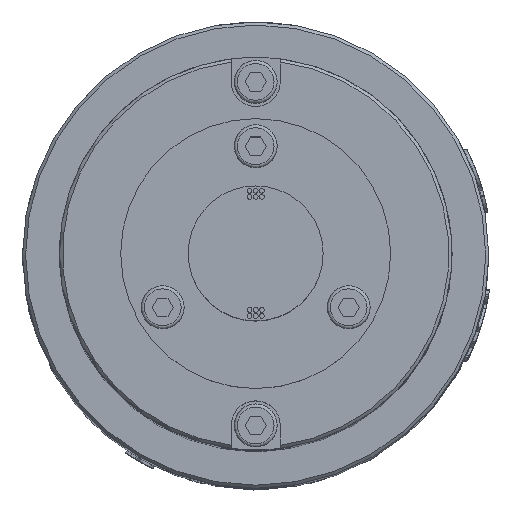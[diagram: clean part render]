
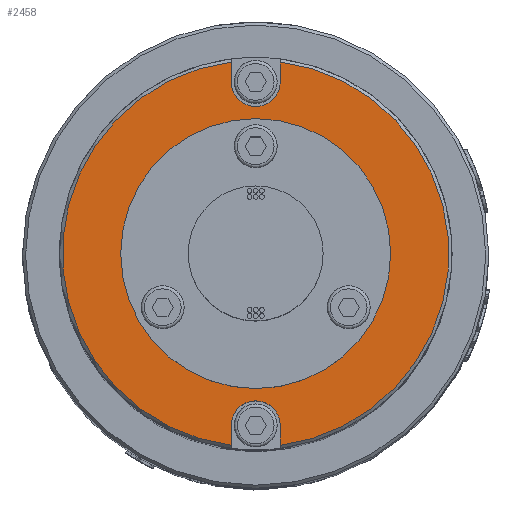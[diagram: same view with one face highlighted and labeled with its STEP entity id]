
A CAD part, top view. The second image highlights one B-rep face of the part: STEP entity #2458.
In plain terms, the highlighted planar face has unit normal (0, 0, 1).
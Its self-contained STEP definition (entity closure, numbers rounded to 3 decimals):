
#2458=ADVANCED_FACE('',(#5340,#5341),#3811,.T.);
#3811=PLANE('',#21771);
#4710=CIRCLE('',#21751,4.);
#4713=CIRCLE('',#21758,4.);
#4716=CIRCLE('',#21763,31.5);
#4719=CIRCLE('',#21768,31.5);
#4720=CIRCLE('',#21770,22.);
#5340=FACE_BOUND('',#6316,.T.);
#5341=FACE_BOUND('',#6317,.T.);
#6316=EDGE_LOOP('',(#8328,#8329,#8330,#8331,#8332,#8333,#8334,#8335));
#6317=EDGE_LOOP('',(#8336));
#8328=ORIENTED_EDGE('',*,*,#16045,.T.);
#8329=ORIENTED_EDGE('',*,*,#16020,.T.);
#8330=ORIENTED_EDGE('',*,*,#16029,.T.);
#8331=ORIENTED_EDGE('',*,*,#16024,.T.);
#8332=ORIENTED_EDGE('',*,*,#16048,.T.);
#8333=ORIENTED_EDGE('',*,*,#16033,.T.);
#8334=ORIENTED_EDGE('',*,*,#16042,.T.);
#8335=ORIENTED_EDGE('',*,*,#16037,.T.);
#8336=ORIENTED_EDGE('',*,*,#16049,.F.);
#13968=VERTEX_POINT('',#29539);
#13969=VERTEX_POINT('',#29541);
#13972=VERTEX_POINT('',#29560);
#13973=VERTEX_POINT('',#29562);
#13978=VERTEX_POINT('',#29578);
#13979=VERTEX_POINT('',#29580);
#13982=VERTEX_POINT('',#29599);
#13983=VERTEX_POINT('',#29601);
#13987=VERTEX_POINT('',#29624);
#16020=EDGE_CURVE('',#13969,#13968,#18887,.T.);
#16024=EDGE_CURVE('',#13973,#13972,#18889,.T.);
#16029=EDGE_CURVE('',#13968,#13973,#4710,.T.);
#16033=EDGE_CURVE('',#13979,#13978,#18895,.T.);
#16037=EDGE_CURVE('',#13983,#13982,#18897,.T.);
#16042=EDGE_CURVE('',#13978,#13983,#4713,.T.);
#16045=EDGE_CURVE('',#13982,#13969,#4716,.T.);
#16048=EDGE_CURVE('',#13972,#13979,#4719,.T.);
#16049=EDGE_CURVE('',#13987,#13987,#4720,.T.);
#18887=LINE('',#29540,#20274);
#18889=LINE('',#29561,#20276);
#18895=LINE('',#29579,#20282);
#18897=LINE('',#29600,#20284);
#20274=VECTOR('',#23891,1.);
#20276=VECTOR('',#23895,1.);
#20282=VECTOR('',#23913,1.);
#20284=VECTOR('',#23917,1.);
#21751=AXIS2_PLACEMENT_3D('',#29570,#23906,#23907);
#21758=AXIS2_PLACEMENT_3D('',#29609,#23928,#23929);
#21763=AXIS2_PLACEMENT_3D('',#29616,#23938,#23939);
#21768=AXIS2_PLACEMENT_3D('',#29621,#23948,#23949);
#21770=AXIS2_PLACEMENT_3D('',#29623,#23952,#23953);
#21771=AXIS2_PLACEMENT_3D('',#29625,#23954,#23955);
#23891=DIRECTION('',(0.,1.,0.));
#23895=DIRECTION('',(0.,-1.,0.));
#23906=DIRECTION('',(0.,0.,-1.));
#23907=DIRECTION('',(1.,0.,0.));
#23913=DIRECTION('',(0.,-1.,0.));
#23917=DIRECTION('',(0.,1.,0.));
#23928=DIRECTION('',(0.,0.,-1.));
#23929=DIRECTION('',(-1.,0.,0.));
#23938=DIRECTION('',(0.,0.,1.));
#23939=DIRECTION('',(1.,0.,0.));
#23948=DIRECTION('',(0.,0.,1.));
#23949=DIRECTION('',(1.,0.,0.));
#23952=DIRECTION('',(0.,0.,1.));
#23953=DIRECTION('',(1.,0.,0.));
#23954=DIRECTION('',(0.,0.,1.));
#23955=DIRECTION('',(1.,0.,0.));
#29539=CARTESIAN_POINT('',(-4.,-28.,303.));
#29540=CARTESIAN_POINT('',(-4.,-30.65,303.));
#29541=CARTESIAN_POINT('',(-4.,-31.245,303.));
#29560=CARTESIAN_POINT('',(4.,-31.245,303.));
#29561=CARTESIAN_POINT('',(4.,-30.65,303.));
#29562=CARTESIAN_POINT('',(4.,-28.,303.));
#29570=CARTESIAN_POINT('',(0.,-28.,303.));
#29578=CARTESIAN_POINT('',(4.,28.,303.));
#29579=CARTESIAN_POINT('',(4.,30.65,303.));
#29580=CARTESIAN_POINT('',(4.,31.245,303.));
#29599=CARTESIAN_POINT('',(-4.,31.245,303.));
#29600=CARTESIAN_POINT('',(-4.,30.65,303.));
#29601=CARTESIAN_POINT('',(-4.,28.,303.));
#29609=CARTESIAN_POINT('',(0.,28.,303.));
#29616=CARTESIAN_POINT('',(0.,0.,303.));
#29621=CARTESIAN_POINT('',(0.,0.,303.));
#29623=CARTESIAN_POINT('',(0.,0.,303.));
#29624=CARTESIAN_POINT('',(22.,0.,303.));
#29625=CARTESIAN_POINT('',(0.,0.,303.));
